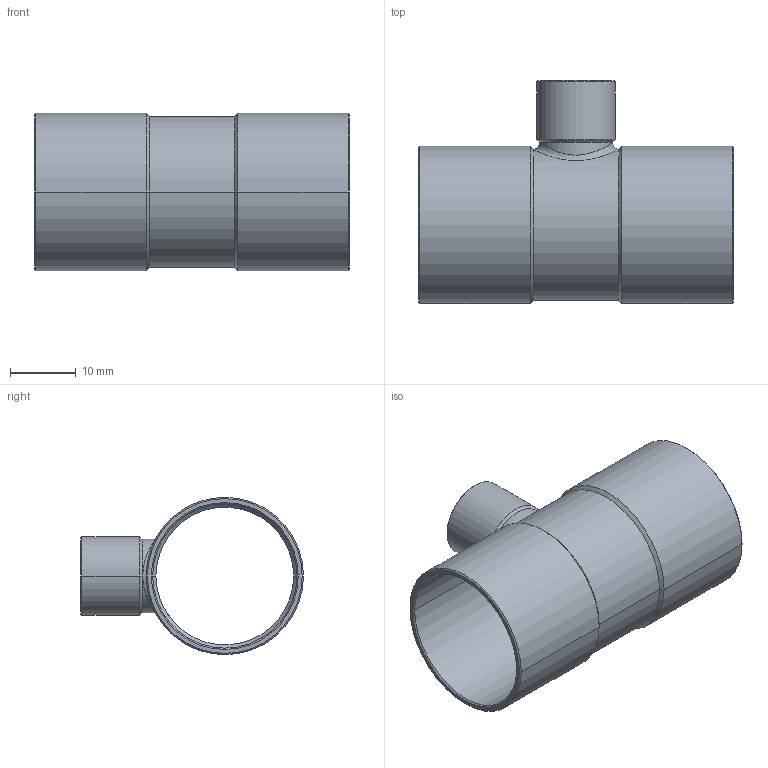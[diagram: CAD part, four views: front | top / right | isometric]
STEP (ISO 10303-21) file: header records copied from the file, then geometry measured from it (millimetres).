
FILE_DESCRIPTION((''),'2;1');
FILE_NAME('P:\Bouwmaten\z-maattekeningen 3D\5000\5130\5130221022.stp','2005-10-26T11:53:36',('Kris'),(''),'Autodesk Inventor 8','Autodesk Inventor 8','');
FILE_SCHEMA(('AUTOMOTIVE_DESIGN { 1 0 10303 214 1 1 1 1 }'));
Length unit declared in the file: millimetre
Products named in the file (1): 5130221022
Bounding box: 48 x 34 x 24 mm (x, y, z)
Volume: 3712.3 mm3; surface area: 7653.9 mm2
Topology: 1 solids, 1 shells, 49 faces, 112 edges, 64 vertices
Faces by surface type: cone 20, cylinder 16, bspline 10, plane 3
Entity records: 1845 total; most frequent: CARTESIAN_POINT 760, ORIENTED_EDGE 224, DIRECTION 220, EDGE_CURVE 112, AXIS2_PLACEMENT_3D 89, VERTEX_POINT 64, EDGE_LOOP 52, CIRCLE 49
